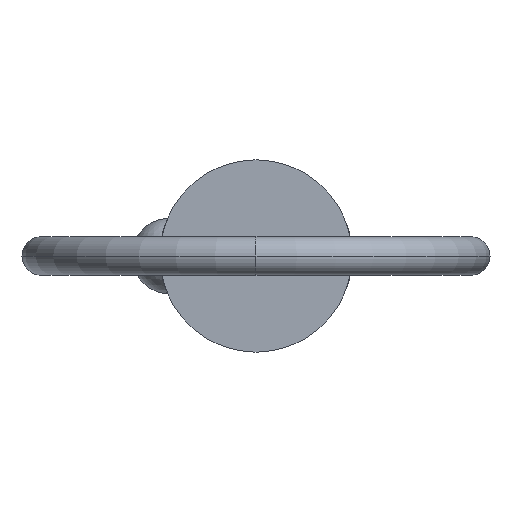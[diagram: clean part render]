
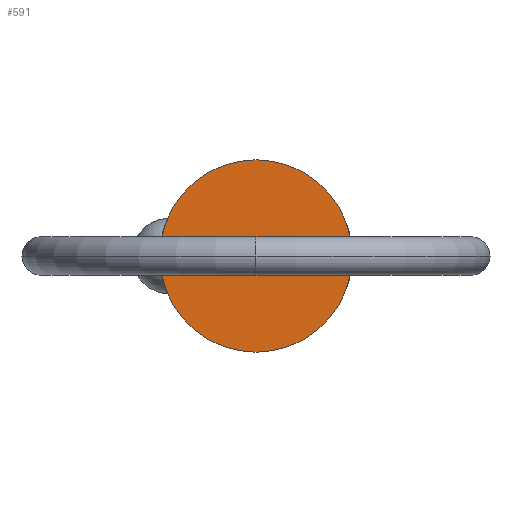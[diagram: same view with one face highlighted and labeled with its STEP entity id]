
A CAD part, left-side view. The second image highlights one B-rep face of the part: STEP entity #591.
In plain terms, the highlighted planar face has unit normal (-1, 0, 0).
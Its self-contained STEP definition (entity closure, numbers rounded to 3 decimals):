
#80 = EDGE_CURVE ( 'NONE', #688, #691, #861, .T. ) ;
#151 = AXIS2_PLACEMENT_3D ( 'NONE', #823, #215, #406 ) ;
#165 = ORIENTED_EDGE ( 'NONE', *, *, #80, .F. ) ;
#181 = DIRECTION ( 'NONE',  ( 1., 0., 0. ) ) ;
#215 = DIRECTION ( 'NONE',  ( 1., 0., 0. ) ) ;
#329 = DIRECTION ( 'NONE',  ( -1., 0., 0. ) ) ;
#397 = CARTESIAN_POINT ( 'NONE',  ( 0., 0., 0. ) ) ;
#404 = CARTESIAN_POINT ( 'NONE',  ( 0., 0., 7.11 ) ) ;
#406 = DIRECTION ( 'NONE',  ( 0., 0., -1. ) ) ;
#411 = FACE_OUTER_BOUND ( 'NONE', #614, .T. ) ;
#520 = CARTESIAN_POINT ( 'NONE',  ( 0., 0., -7.11 ) ) ;
#529 = CIRCLE ( 'NONE', #151, 7.11 ) ;
#585 = AXIS2_PLACEMENT_3D ( 'NONE', #592, #181, #866 ) ;
#591 = ADVANCED_FACE ( 'NONE', ( #411 ), #675, .T. ) ;
#592 = CARTESIAN_POINT ( 'NONE',  ( 0., 0., 0. ) ) ;
#614 = EDGE_LOOP ( 'NONE', ( #165, #826 ) ) ;
#675 = PLANE ( 'NONE',  #821 ) ;
#677 = EDGE_CURVE ( 'NONE', #691, #688, #529, .T. ) ;
#678 = DIRECTION ( 'NONE',  ( 0., 0., 1. ) ) ;
#688 = VERTEX_POINT ( 'NONE', #520 ) ;
#691 = VERTEX_POINT ( 'NONE', #404 ) ;
#821 = AXIS2_PLACEMENT_3D ( 'NONE', #397, #329, #678 ) ;
#823 = CARTESIAN_POINT ( 'NONE',  ( 0., 0., 0. ) ) ;
#826 = ORIENTED_EDGE ( 'NONE', *, *, #677, .F. ) ;
#861 = CIRCLE ( 'NONE', #585, 7.11 ) ;
#866 = DIRECTION ( 'NONE',  ( 0., 0., -1. ) ) ;
